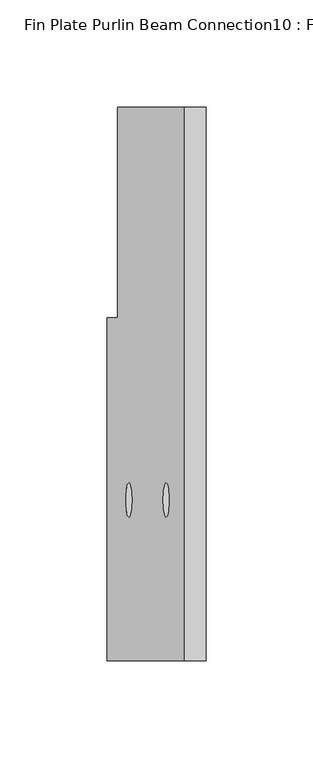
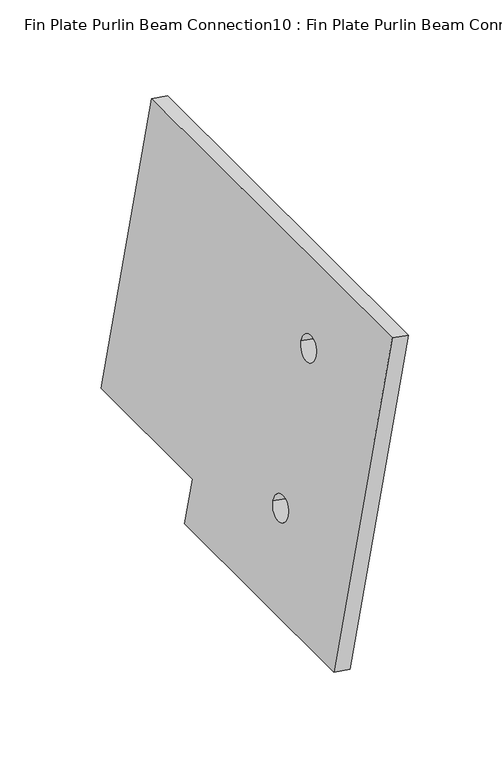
"""IFC4 building model written with IfcOpenShell, lengths in millimetres: proxy geometry, Fin Plate Purlin Beam Connection10 : Fin Plate Purlin Beam Connection."""

from ifc_helpers import new_model, si_unit, point, frame, frame_2d, origin, place, context, project, spatial, polyline, circle_curve, trimmed, segment, composite_curve, outline, extrude, source, transform, mapped, element, save


def fin_plate_purlin_beam_connection10_fin_plate_purlin_beam_caf90ba1(model_context):
    return source(origin(), model_context, "Body", "SweptSolid", [
        extrude(outline(polyline([(0.0, 0.0), (0.0, -181.2383863), (-258.2, -181.2383863), (-258.2, 27.7176621), (-98.2, 27.7176621), (-98.2, 0.0), (0.0, 0.0)]), holes=[composite_curve([segment(trimmed(circle_curve(frame_2d((-183.2, -131.2383863)), 8.0), [point((-175.2, -131.2383863))], [point((-191.2, -131.2383863))], True, "CARTESIAN"), True, "CONTINUOUS"), segment(trimmed(circle_curve(frame_2d((-183.2, -131.2383863)), 8.0), [point((-191.2, -131.2383863))], [point((-175.2, -131.2383863))], True, "CARTESIAN"), True, "CONTINUOUS")], self_intersect=False), composite_curve([segment(trimmed(circle_curve(frame_2d((-183.2, -31.2383863)), 8.0), [point((-175.2, -31.2383863))], [point((-191.2, -31.2383863))], True, "CARTESIAN"), True, "CONTINUOUS"), segment(trimmed(circle_curve(frame_2d((-183.2, -31.2383863)), 8.0), [point((-191.2, -31.2383863))], [point((-175.2, -31.2383863))], True, "CARTESIAN"), True, "CONTINUOUS")], self_intersect=False)]), frame((-31710.9687014, 15850.823117, 3235.2038409), z_axis=(-0.9848077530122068, 0.0, 0.17364817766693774), x_axis=(0.0, 1.0, 0.0)), (0.0, 0.0, 1.0), 10.0),
    ])


if __name__ == "__main__":
    model = new_model("IFC4")
    model_context = context("Model", 3, world=origin())
    ifc_project = project(units=[si_unit("LENGTHUNIT", "METRE", prefix="MILLI")], contexts=[model_context])
    site = spatial("IfcSite", under=ifc_project)
    building = spatial("IfcBuilding", under=site)
    placement = place(None, origin())
    fin_plate_purlin_beam_connection10_fin_plate_purlin_beam_shape = fin_plate_purlin_beam_connection10_fin_plate_purlin_beam_caf90ba1(model_context)
    element("IfcBuildingElementProxy", 1, Name="Fin Plate Purlin Beam Connection10 : Fin Plate Purlin Beam Connection", ObjectType="Fin Plate Purlin Beam Connection10 : Fin Plate Purlin Beam Connection", at=placement, inside=building, context=model_context, shape_type="MappedRepresentation", body=[
        mapped(fin_plate_purlin_beam_connection10_fin_plate_purlin_beam_shape, transform((0.0, 0.0, 0.0), x_axis=(1.0, 0.0, 0.0), y_axis=(0.0, 1.0, 0.0), z_axis=(0.0, 0.0, 1.0))),
    ])
    save(model, "model.ifc")
